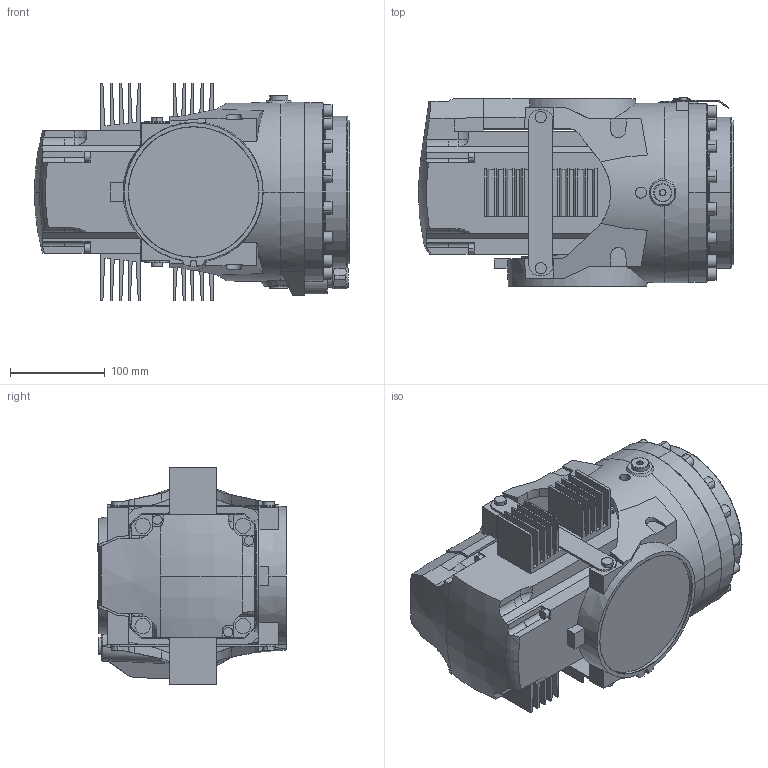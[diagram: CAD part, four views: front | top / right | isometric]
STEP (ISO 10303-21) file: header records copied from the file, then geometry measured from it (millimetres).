
FILE_DESCRIPTION (( 'STEP AP214' ), '1' );
FILE_NAME ('IRB6760_All-350_OC_00_LINK05_CAD.step', '2025-09-30T13:06:38', ( '' ), ( '' ), 'SwSTEP 2.0', 'SolidWorks 2024', '' );
FILE_SCHEMA (( 'AUTOMOTIVE_DESIGN' ));
Length unit declared in the file: millimetre
Products named in the file (1): IRB6760_All-350_OC_00_LINK05_CAD
Bounding box: 333.45 x 199.73 x 230 mm (x, y, z)
Volume: 7698361.6 mm3; surface area: 509112.6 mm2
Topology: 1 solids, 3 shells, 752 faces, 2033 edges, 1322 vertices
Faces by surface type: plane 445, cylinder 194, cone 84, bspline 22, torus 7
Entity records: 34697 total; most frequent: CARTESIAN_POINT 7730, ORIENTED_EDGE 4062, DIRECTION 3728, EDGE_CURVE 2031, VERTEX_POINT 1322, AXIS2_PLACEMENT_3D 1268, VECTOR 1192, LINE 1192
